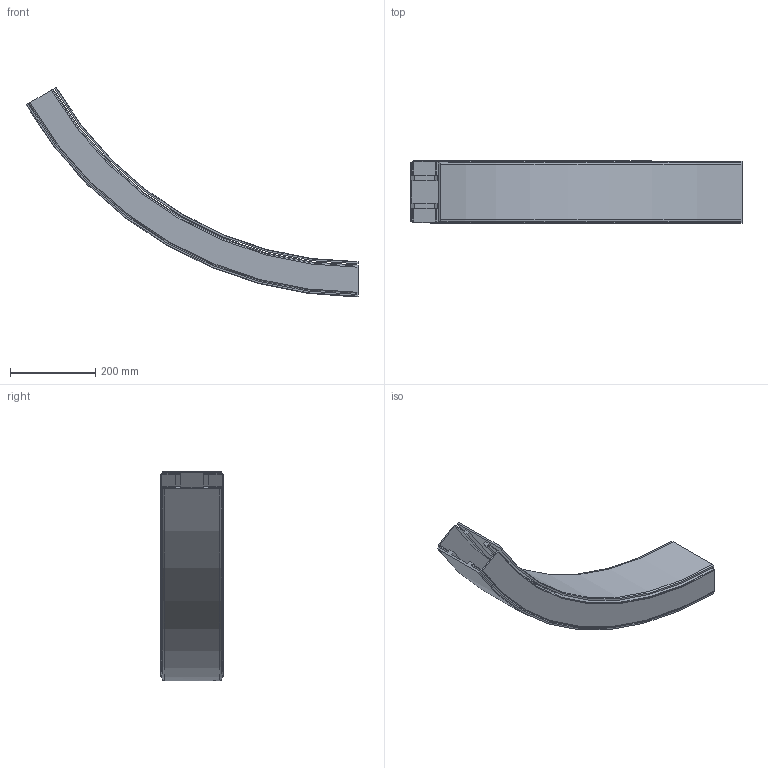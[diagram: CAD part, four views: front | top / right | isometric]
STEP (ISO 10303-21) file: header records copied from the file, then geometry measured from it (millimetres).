
FILE_DESCRIPTION(/* description */ ('VERTIKALKURVA S540 R860'),/* implementation_level */ '2;1');
FILE_NAME(/* name */ '540-5695+140-2000-NER-01.stp',/* time_stamp */ '2022-09-21T11:26:44+02:00',/* author */ ('Mathias.Dore'),/* organization */ ('CARRYLINE'),/* preprocessor_version */ 'ST-DEVELOPER v19.2',/* originating_system */ 'Autodesk Inventor 2023',/* authorisation */ '');
FILE_SCHEMA (('AUTOMOTIVE_DESIGN { 1 0 10303 214 3 1 1 }'));
Length unit declared in the file: millimetre
Products named in the file (1): 540-5695+140-2000-NER-01
Bounding box: 778.99 x 146 x 490.75 mm (x, y, z)
Volume: 2064276.6 mm3; surface area: 1070852.2 mm2
Topology: 2 solids, 2 shells, 87 faces, 234 edges, 156 vertices
Faces by surface type: plane 40, cylinder 25, bspline 14, cone 4, torus 4
Entity records: 7369 total; most frequent: CARTESIAN_POINT 5170, ORIENTED_EDGE 468, DIRECTION 408, EDGE_CURVE 234, VERTEX_POINT 156, AXIS2_PLACEMENT_3D 141, LINE 126, VECTOR 126
